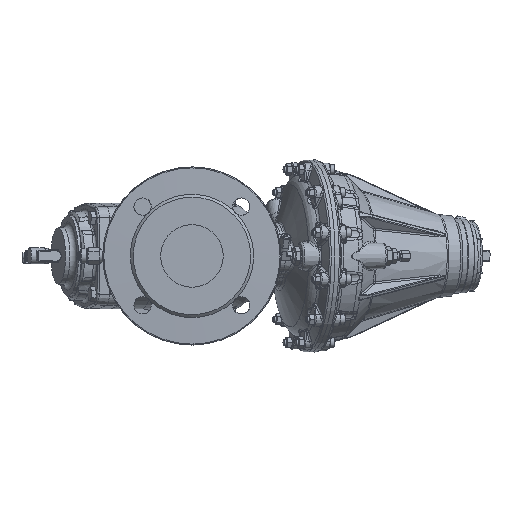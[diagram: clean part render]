
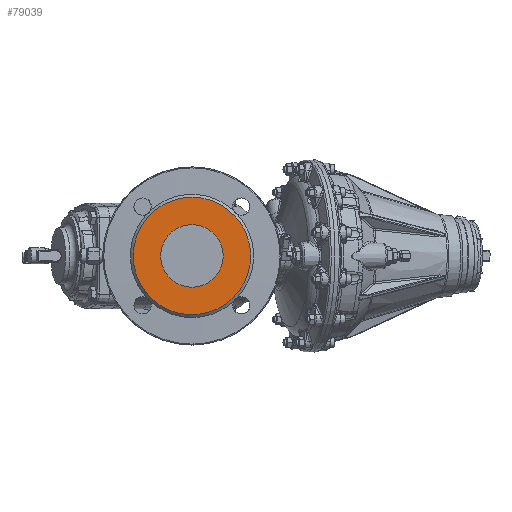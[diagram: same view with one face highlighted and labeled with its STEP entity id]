
A CAD part, left-side view. The second image highlights one B-rep face of the part: STEP entity #79039.
In plain terms, the highlighted planar face has unit normal (-1, 0, 0).
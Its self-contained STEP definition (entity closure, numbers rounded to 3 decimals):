
#6959 = DIRECTION ( 'NONE',  ( -1., 0., 0. ) ) ;
#6960 = CARTESIAN_POINT ( 'NONE',  ( -137., -32.5, 0. ) ) ;
#6961 = AXIS2_PLACEMENT_3D ( 'NONE', #6960, #6959, #7002 ) ;
#6970 = PLANE ( 'NONE',  #6961 ) ;
#6972 = FACE_BOUND ( 'NONE', #80164, .T. ) ;
#6974 = FACE_OUTER_BOUND ( 'NONE', #78889, .T. ) ;
#7002 = DIRECTION ( 'NONE',  ( 0., 0., 1. ) ) ;
#15758 = VERTEX_POINT ( 'NONE', #15770 ) ;
#15770 = CARTESIAN_POINT ( 'NONE',  ( -137., 0., 32.5 ) ) ;
#16485 = CARTESIAN_POINT ( 'NONE',  ( -137., 0., 61. ) ) ;
#16490 = VERTEX_POINT ( 'NONE', #16485 ) ;
#50448 = EDGE_CURVE ( 'NONE', #15758, #15758, #108474, .T. ) ;
#72781 = CIRCLE ( 'NONE', #72785, 61. ) ;
#72785 = AXIS2_PLACEMENT_3D ( 'NONE', #72791, #72808, #72807 ) ;
#72791 = CARTESIAN_POINT ( 'NONE',  ( -137., 0., 0. ) ) ;
#72807 = DIRECTION ( 'NONE',  ( 0., 0., 1. ) ) ;
#72808 = DIRECTION ( 'NONE',  ( -1., 0., 0. ) ) ;
#78889 = EDGE_LOOP ( 'NONE', ( #78983 ) ) ;
#78983 = ORIENTED_EDGE ( 'NONE', *, *, #80097, .T. ) ;
#79039 = ADVANCED_FACE ( 'NONE', ( #6974, #6972 ), #6970, .T. ) ;
#79869 = ORIENTED_EDGE ( 'NONE', *, *, #50448, .F. ) ;
#80097 = EDGE_CURVE ( 'NONE', #16490, #16490, #72781, .T. ) ;
#80164 = EDGE_LOOP ( 'NONE', ( #79869 ) ) ;
#108459 = DIRECTION ( 'NONE',  ( -1., 0., 0. ) ) ;
#108461 = CARTESIAN_POINT ( 'NONE',  ( -137., 0., 0. ) ) ;
#108462 = AXIS2_PLACEMENT_3D ( 'NONE', #108461, #108459, #108551 ) ;
#108474 = CIRCLE ( 'NONE', #108462, 32.5 ) ;
#108551 = DIRECTION ( 'NONE',  ( 0., 0., 1. ) ) ;
